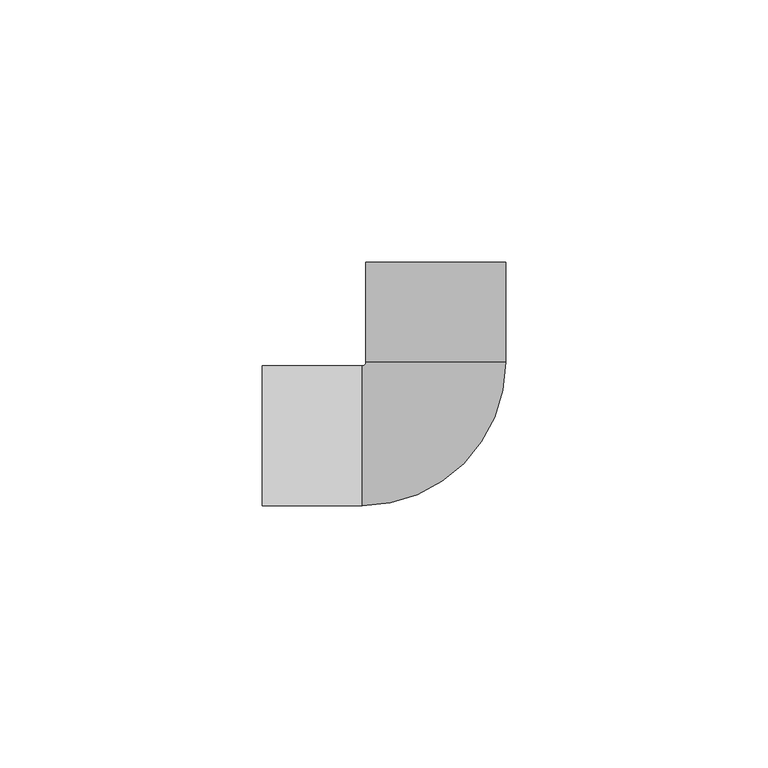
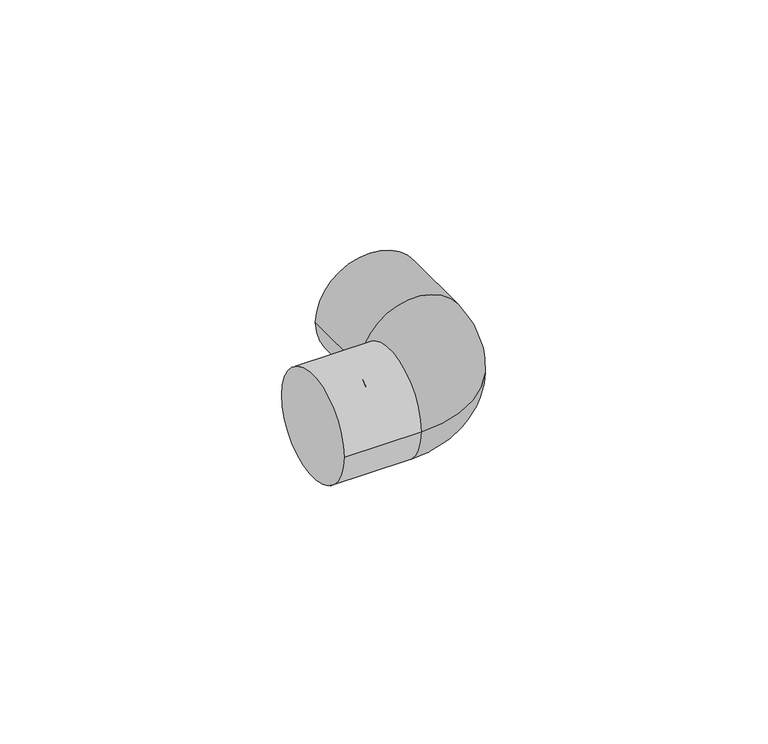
"""IFC4 building model written with IfcOpenShell, lengths in millimetres: pipe fitting geometry, 01051001 : Codos 90º."""

from ifc_helpers import new_model, si_unit, point, frame, origin, place, context, project, spatial, circle_curve, ellipse_curve, trimmed, source, transform, mapped, element, save
from ifc_brep_helpers import plane_surface, cylinder_surface, revolved_surface, advanced_brep


def pipe_fitting_7c3984a6(model_context):
    return source(origin(), model_context, "Body", "AdvancedBrep", [
        advanced_brep(
        [(-14.0, -13.3, 0.0), (13.3, 14.0, 0.0), (-13.3, 14.0, 0.0), (-14.0, 13.3, 0.0), (-13.3, 33.0, 0.0), (13.3, 33.0, 0.0), (-33.0, 13.3, 0.0), (-33.0, -13.3, 0.0)],
        [
            (0, 1, circle_curve(frame((-14.0, 14.0, 0.0), z_axis=(0.0, 0.0, 1.0), x_axis=(1.0, 0.0, 0.0)), 27.3)),
            (1, 2, circle_curve(frame((0.0, 14.0, 0.0), z_axis=(0.0, -1.0, 0.0), x_axis=(1.0, 0.0, 0.0)), 13.3)),
            (2, 3, circle_curve(frame((-14.0, 14.0, 0.0), z_axis=(0.0, 0.0, -1.0), x_axis=(1.0, 0.0, 0.0)), 0.7)),
            (3, 0, circle_curve(frame((-14.0, 0.0, 0.0), z_axis=(1.0, 0.0, 0.0), x_axis=(0.0, -1.0, 0.0)), 13.3)),
            (2, 1, circle_curve(frame((0.0, 14.0, 0.0), z_axis=(0.0, -1.0, 0.0), x_axis=(1.0, 0.0, 0.0)), 13.3)),
            (0, 3, circle_curve(frame((-14.0, 0.0, 0.0), z_axis=(1.0, 0.0, 0.0), x_axis=(0.0, -1.0, 0.0)), 13.3)),
            (4, 5, circle_curve(frame((0.0, 33.0, 0.0), z_axis=(0.0, 1.0, 0.0), x_axis=(1.0, 0.0, 0.0)), 13.3)),
            (5, 4, circle_curve(frame((0.0, 33.0, 0.0), z_axis=(0.0, 1.0, 0.0), x_axis=(1.0, 0.0, 0.0)), 13.3)),
            (4, 2),
            (1, 5),
            (6, 7, circle_curve(frame((-33.0, 0.0, 0.0), z_axis=(-1.0, 0.0, 0.0), x_axis=(0.0, -1.0, 0.0)), 13.3)),
            (7, 6, circle_curve(frame((-33.0, 0.0, 0.0), z_axis=(-1.0, 0.0, 0.0), x_axis=(0.0, -1.0, 0.0)), 13.3)),
            (3, 6),
            (7, 0),
        ],
        [
            revolved_surface(trimmed(ellipse_curve(frame((0.0, 14.0, 0.0), z_axis=(0.0, 1.0, 0.0), x_axis=(1.0, 0.0, 0.0)), 13.3, 13.3), [point((-13.3, 14.0, 0.0))], [point((13.3, 14.0, 0.0))], True, "CARTESIAN"), (-14.0, 14.0, 0.0), (0.0, 0.0, -1.0)),
            revolved_surface(trimmed(ellipse_curve(frame((0.0, 14.0, 0.0), z_axis=(0.0, 1.0, 0.0), x_axis=(1.0, 0.0, 0.0)), 13.3, 13.3), [point((13.3, 14.0, 0.0))], [point((-13.3, 14.0, 0.0))], True, "CARTESIAN"), (-14.0, 14.0, 0.0), (0.0, 0.0, -1.0)),
            plane_surface(frame((0.0, 33.0, 0.0), z_axis=(0.0, 1.0, 0.0), x_axis=(0.0, 0.0, 1.0))),
            cylinder_surface(frame((0.0, 33.0, 0.0), z_axis=(0.0, 1.0, 0.0), x_axis=(1.0, 0.0, 0.0)), 13.3),
            plane_surface(frame((-33.0, 0.0, 0.0), z_axis=(-1.0, 0.0, 0.0), x_axis=(0.0, 0.0, 1.0))),
            cylinder_surface(frame((-14.0, 0.0, 0.0), z_axis=(1.0, 0.0, 0.0), x_axis=(0.0, -1.0, 0.0)), 13.3),
        ],
        [
            (0, [[1, 2, 3, 4]]),
            (1, [[-3, 5, -1, 6]]),
            (2, [[7, 8]]),
            (3, [[-7, 9, -2, 10]]),
            (3, [[-8, -10, -5, -9]]),
            (4, [[11, 12]]),
            (5, [[-4, 13, -12, 14]]),
            (5, [[-6, -14, -11, -13]]),
        ],
    ),
    ])


if __name__ == "__main__":
    model = new_model("IFC4")
    model_context = context("Model", 3, world=origin())
    ifc_project = project(units=[si_unit("LENGTHUNIT", "METRE", prefix="MILLI")], contexts=[model_context])
    site = spatial("IfcSite", under=ifc_project)
    building = spatial("IfcBuilding", under=site)
    placement = place(None, origin())
    pipe_fitting_shape = pipe_fitting_7c3984a6(model_context)
    element("IfcPipeFitting", 1, ObjectType="01051001 : Codos 90º", at=placement, inside=building, context=model_context, shape_type="MappedRepresentation", body=[
        mapped(pipe_fitting_shape, transform((0.0, 0.0, 0.0), x_axis=(1.0, 0.0, 0.0), y_axis=(0.0, 1.0, 0.0), z_axis=(0.0, 0.0, 1.0))),
    ])
    save(model, "model.ifc")
